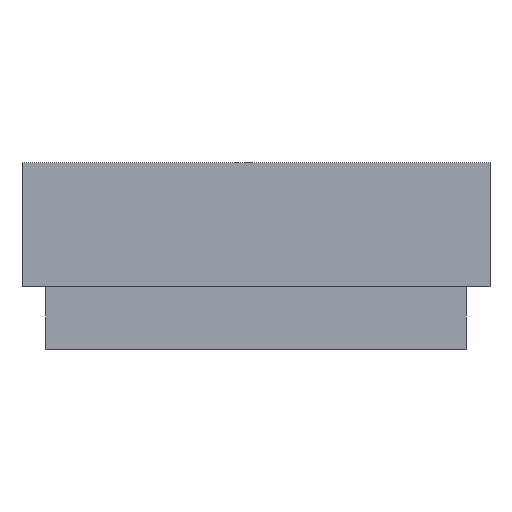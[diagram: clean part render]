
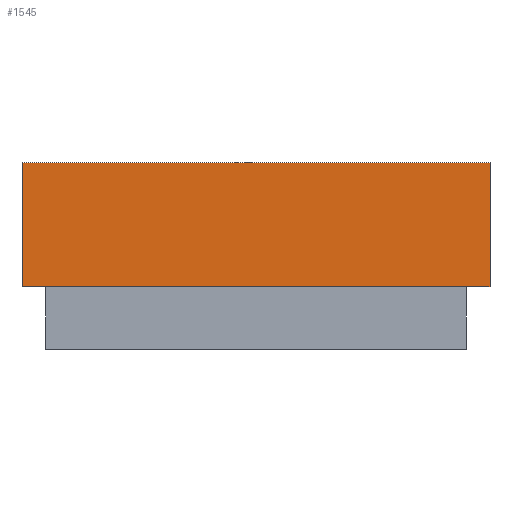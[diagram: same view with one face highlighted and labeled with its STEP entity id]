
A CAD part, left-side view. The second image highlights one B-rep face of the part: STEP entity #1545.
In plain terms, the highlighted planar face has unit normal (-1, 0, 0).
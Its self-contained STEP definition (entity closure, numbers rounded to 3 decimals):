
#126 = PLANE('',#127);
#127 = AXIS2_PLACEMENT_3D('',#128,#129,#130);
#128 = CARTESIAN_POINT('',(-37.5,-26.95,4.));
#129 = DIRECTION('',(0.,0.,1.));
#130 = DIRECTION('',(1.,0.,0.));
#166 = VERTEX_POINT('',#167);
#167 = CARTESIAN_POINT('',(-32.2,-26.95,4.));
#204 = PLANE('',#205);
#205 = AXIS2_PLACEMENT_3D('',#206,#207,#208);
#206 = CARTESIAN_POINT('',(-30.,0.,4.));
#207 = DIRECTION('',(0.,0.,1.));
#208 = DIRECTION('',(1.,0.,-0.));
#498 = VERTEX_POINT('',#499);
#499 = CARTESIAN_POINT('',(-32.2,26.95,4.));
#522 = EDGE_CURVE('',#498,#166,#523,.T.);
#523 = SURFACE_CURVE('',#524,(#528,#535),.PCURVE_S1.);
#524 = LINE('',#525,#526);
#525 = CARTESIAN_POINT('',(-32.2,30.,4.));
#526 = VECTOR('',#527,1.);
#527 = DIRECTION('',(0.,-1.,0.));
#528 = PCURVE('',#126,#529);
#529 = DEFINITIONAL_REPRESENTATION('',(#530),#534);
#530 = LINE('',#531,#532);
#531 = CARTESIAN_POINT('',(5.3,56.95));
#532 = VECTOR('',#533,1.);
#533 = DIRECTION('',(0.,-1.));
#534 = ( GEOMETRIC_REPRESENTATION_CONTEXT(2) 
PARAMETRIC_REPRESENTATION_CONTEXT() REPRESENTATION_CONTEXT('2D SPACE',''
  ) );
#535 = PCURVE('',#536,#541);
#536 = PLANE('',#537);
#537 = AXIS2_PLACEMENT_3D('',#538,#539,#540);
#538 = CARTESIAN_POINT('',(-32.2,30.,4.));
#539 = DIRECTION('',(1.,0.,-0.));
#540 = DIRECTION('',(0.,-1.,0.));
#541 = DEFINITIONAL_REPRESENTATION('',(#542),#546);
#542 = LINE('',#543,#544);
#543 = CARTESIAN_POINT('',(0.,0.));
#544 = VECTOR('',#545,1.);
#545 = DIRECTION('',(1.,0.));
#546 = ( GEOMETRIC_REPRESENTATION_CONTEXT(2) 
PARAMETRIC_REPRESENTATION_CONTEXT() REPRESENTATION_CONTEXT('2D SPACE',''
  ) );
#592 = PLANE('',#593);
#593 = AXIS2_PLACEMENT_3D('',#594,#595,#596);
#594 = CARTESIAN_POINT('',(-30.,0.,4.));
#595 = DIRECTION('',(0.,0.,1.));
#596 = DIRECTION('',(1.,0.,-0.));
#909 = EDGE_CURVE('',#166,#910,#912,.T.);
#910 = VERTEX_POINT('',#911);
#911 = CARTESIAN_POINT('',(-32.2,-30.,4.));
#912 = SURFACE_CURVE('',#913,(#917,#924),.PCURVE_S1.);
#913 = LINE('',#914,#915);
#914 = CARTESIAN_POINT('',(-32.2,30.,4.));
#915 = VECTOR('',#916,1.);
#916 = DIRECTION('',(0.,-1.,0.));
#917 = PCURVE('',#204,#918);
#918 = DEFINITIONAL_REPRESENTATION('',(#919),#923);
#919 = LINE('',#920,#921);
#920 = CARTESIAN_POINT('',(-2.2,30.));
#921 = VECTOR('',#922,1.);
#922 = DIRECTION('',(0.,-1.));
#923 = ( GEOMETRIC_REPRESENTATION_CONTEXT(2) 
PARAMETRIC_REPRESENTATION_CONTEXT() REPRESENTATION_CONTEXT('2D SPACE',''
  ) );
#924 = PCURVE('',#536,#925);
#925 = DEFINITIONAL_REPRESENTATION('',(#926),#930);
#926 = LINE('',#927,#928);
#927 = CARTESIAN_POINT('',(0.,0.));
#928 = VECTOR('',#929,1.);
#929 = DIRECTION('',(1.,0.));
#930 = ( GEOMETRIC_REPRESENTATION_CONTEXT(2) 
PARAMETRIC_REPRESENTATION_CONTEXT() REPRESENTATION_CONTEXT('2D SPACE',''
  ) );
#948 = PLANE('',#949);
#949 = AXIS2_PLACEMENT_3D('',#950,#951,#952);
#950 = CARTESIAN_POINT('',(-32.2,-30.,4.));
#951 = DIRECTION('',(0.,1.,0.));
#952 = DIRECTION('',(1.,0.,0.));
#1545 = ADVANCED_FACE('',(#1546),#536,.F.);
#1546 = FACE_BOUND('',#1547,.F.);
#1547 = EDGE_LOOP('',(#1548,#1578,#1606,#1627,#1628,#1629));
#1548 = ORIENTED_EDGE('',*,*,#1549,.T.);
#1549 = EDGE_CURVE('',#1550,#1552,#1554,.T.);
#1550 = VERTEX_POINT('',#1551);
#1551 = CARTESIAN_POINT('',(-32.2,30.,4.));
#1552 = VERTEX_POINT('',#1553);
#1553 = CARTESIAN_POINT('',(-32.2,30.,19.9));
#1554 = SURFACE_CURVE('',#1555,(#1559,#1566),.PCURVE_S1.);
#1555 = LINE('',#1556,#1557);
#1556 = CARTESIAN_POINT('',(-32.2,30.,4.));
#1557 = VECTOR('',#1558,1.);
#1558 = DIRECTION('',(0.,0.,1.));
#1559 = PCURVE('',#536,#1560);
#1560 = DEFINITIONAL_REPRESENTATION('',(#1561),#1565);
#1561 = LINE('',#1562,#1563);
#1562 = CARTESIAN_POINT('',(0.,0.));
#1563 = VECTOR('',#1564,1.);
#1564 = DIRECTION('',(0.,-1.));
#1565 = ( GEOMETRIC_REPRESENTATION_CONTEXT(2) 
PARAMETRIC_REPRESENTATION_CONTEXT() REPRESENTATION_CONTEXT('2D SPACE',''
  ) );
#1566 = PCURVE('',#1567,#1572);
#1567 = PLANE('',#1568);
#1568 = AXIS2_PLACEMENT_3D('',#1569,#1570,#1571);
#1569 = CARTESIAN_POINT('',(-27.8,30.,4.));
#1570 = DIRECTION('',(0.,-1.,0.));
#1571 = DIRECTION('',(-1.,0.,0.));
#1572 = DEFINITIONAL_REPRESENTATION('',(#1573),#1577);
#1573 = LINE('',#1574,#1575);
#1574 = CARTESIAN_POINT('',(4.4,0.));
#1575 = VECTOR('',#1576,1.);
#1576 = DIRECTION('',(0.,-1.));
#1577 = ( GEOMETRIC_REPRESENTATION_CONTEXT(2) 
PARAMETRIC_REPRESENTATION_CONTEXT() REPRESENTATION_CONTEXT('2D SPACE',''
  ) );
#1578 = ORIENTED_EDGE('',*,*,#1579,.T.);
#1579 = EDGE_CURVE('',#1552,#1580,#1582,.T.);
#1580 = VERTEX_POINT('',#1581);
#1581 = CARTESIAN_POINT('',(-32.2,-30.,19.9));
#1582 = SURFACE_CURVE('',#1583,(#1587,#1594),.PCURVE_S1.);
#1583 = LINE('',#1584,#1585);
#1584 = CARTESIAN_POINT('',(-32.2,30.,19.9));
#1585 = VECTOR('',#1586,1.);
#1586 = DIRECTION('',(0.,-1.,0.));
#1587 = PCURVE('',#536,#1588);
#1588 = DEFINITIONAL_REPRESENTATION('',(#1589),#1593);
#1589 = LINE('',#1590,#1591);
#1590 = CARTESIAN_POINT('',(0.,-15.9));
#1591 = VECTOR('',#1592,1.);
#1592 = DIRECTION('',(1.,0.));
#1593 = ( GEOMETRIC_REPRESENTATION_CONTEXT(2) 
PARAMETRIC_REPRESENTATION_CONTEXT() REPRESENTATION_CONTEXT('2D SPACE',''
  ) );
#1594 = PCURVE('',#1595,#1600);
#1595 = PLANE('',#1596);
#1596 = AXIS2_PLACEMENT_3D('',#1597,#1598,#1599);
#1597 = CARTESIAN_POINT('',(-30.,0.,19.9));
#1598 = DIRECTION('',(0.,0.,1.));
#1599 = DIRECTION('',(1.,0.,-0.));
#1600 = DEFINITIONAL_REPRESENTATION('',(#1601),#1605);
#1601 = LINE('',#1602,#1603);
#1602 = CARTESIAN_POINT('',(-2.2,30.));
#1603 = VECTOR('',#1604,1.);
#1604 = DIRECTION('',(0.,-1.));
#1605 = ( GEOMETRIC_REPRESENTATION_CONTEXT(2) 
PARAMETRIC_REPRESENTATION_CONTEXT() REPRESENTATION_CONTEXT('2D SPACE',''
  ) );
#1606 = ORIENTED_EDGE('',*,*,#1607,.F.);
#1607 = EDGE_CURVE('',#910,#1580,#1608,.T.);
#1608 = SURFACE_CURVE('',#1609,(#1613,#1620),.PCURVE_S1.);
#1609 = LINE('',#1610,#1611);
#1610 = CARTESIAN_POINT('',(-32.2,-30.,4.));
#1611 = VECTOR('',#1612,1.);
#1612 = DIRECTION('',(0.,0.,1.));
#1613 = PCURVE('',#536,#1614);
#1614 = DEFINITIONAL_REPRESENTATION('',(#1615),#1619);
#1615 = LINE('',#1616,#1617);
#1616 = CARTESIAN_POINT('',(60.,0.));
#1617 = VECTOR('',#1618,1.);
#1618 = DIRECTION('',(0.,-1.));
#1619 = ( GEOMETRIC_REPRESENTATION_CONTEXT(2) 
PARAMETRIC_REPRESENTATION_CONTEXT() REPRESENTATION_CONTEXT('2D SPACE',''
  ) );
#1620 = PCURVE('',#948,#1621);
#1621 = DEFINITIONAL_REPRESENTATION('',(#1622),#1626);
#1622 = LINE('',#1623,#1624);
#1623 = CARTESIAN_POINT('',(0.,0.));
#1624 = VECTOR('',#1625,1.);
#1625 = DIRECTION('',(0.,-1.));
#1626 = ( GEOMETRIC_REPRESENTATION_CONTEXT(2) 
PARAMETRIC_REPRESENTATION_CONTEXT() REPRESENTATION_CONTEXT('2D SPACE',''
  ) );
#1627 = ORIENTED_EDGE('',*,*,#909,.F.);
#1628 = ORIENTED_EDGE('',*,*,#522,.F.);
#1629 = ORIENTED_EDGE('',*,*,#1630,.F.);
#1630 = EDGE_CURVE('',#1550,#498,#1631,.T.);
#1631 = SURFACE_CURVE('',#1632,(#1636,#1643),.PCURVE_S1.);
#1632 = LINE('',#1633,#1634);
#1633 = CARTESIAN_POINT('',(-32.2,30.,4.));
#1634 = VECTOR('',#1635,1.);
#1635 = DIRECTION('',(0.,-1.,0.));
#1636 = PCURVE('',#536,#1637);
#1637 = DEFINITIONAL_REPRESENTATION('',(#1638),#1642);
#1638 = LINE('',#1639,#1640);
#1639 = CARTESIAN_POINT('',(0.,0.));
#1640 = VECTOR('',#1641,1.);
#1641 = DIRECTION('',(1.,0.));
#1642 = ( GEOMETRIC_REPRESENTATION_CONTEXT(2) 
PARAMETRIC_REPRESENTATION_CONTEXT() REPRESENTATION_CONTEXT('2D SPACE',''
  ) );
#1643 = PCURVE('',#592,#1644);
#1644 = DEFINITIONAL_REPRESENTATION('',(#1645),#1649);
#1645 = LINE('',#1646,#1647);
#1646 = CARTESIAN_POINT('',(-2.2,30.));
#1647 = VECTOR('',#1648,1.);
#1648 = DIRECTION('',(0.,-1.));
#1649 = ( GEOMETRIC_REPRESENTATION_CONTEXT(2) 
PARAMETRIC_REPRESENTATION_CONTEXT() REPRESENTATION_CONTEXT('2D SPACE',''
  ) );
